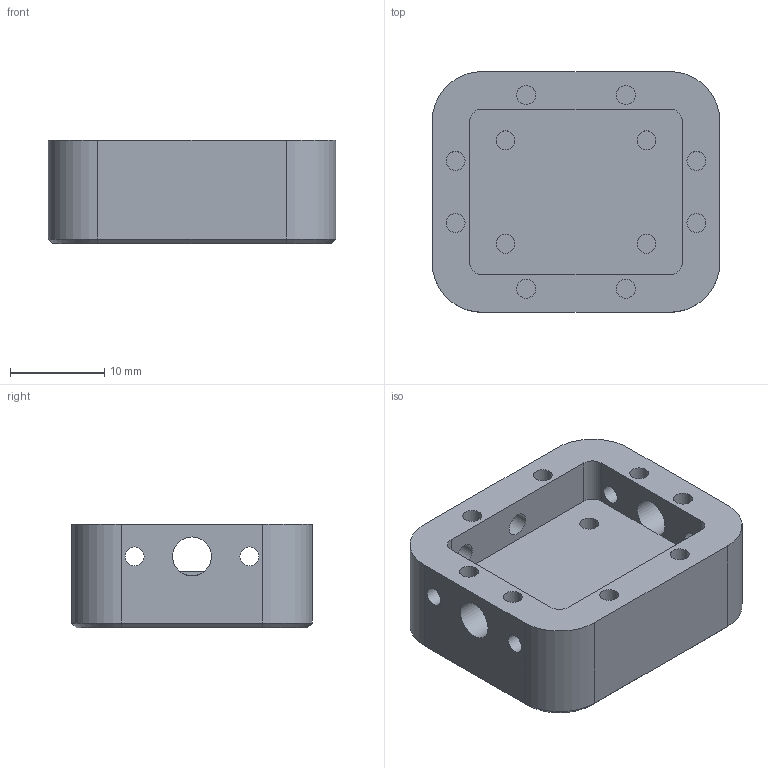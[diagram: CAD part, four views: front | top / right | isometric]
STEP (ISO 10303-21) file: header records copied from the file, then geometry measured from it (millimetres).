
FILE_DESCRIPTION(/* description */ (''),/* implementation_level */ '2;1');
FILE_NAME(/* name */ 'D:\PRJ\10 GHz divider\M-CAD\Box.stp',/* time_stamp */ '2025-02-28T19:00:00+01:00',/* author */ ('Carsten Grøn'),/* organization */ (''),/* preprocessor_version */ 'ST-DEVELOPER v18',/* originating_system */ 'Autodesk Inventor 2020',/* authorisation */ '');
FILE_SCHEMA (('CONFIG_CONTROL_DESIGN'));
Length unit declared in the file: millimetre
Products named in the file (1): Box
Bounding box: 30.6 x 25.6 x 11 mm (x, y, z)
Volume: 5918.4 mm3; surface area: 3668 mm2
Topology: 1 solids, 1 shells, 61 faces, 164 edges, 116 vertices
Faces by surface type: plane 29, cylinder 28, cone 4
Full cylindrical faces by diameter (mm): 2.013 x16, 2.459 x2, 4.15 x2
Entity records: 2067 total; most frequent: DIRECTION 384, CARTESIAN_POINT 342, ORIENTED_EDGE 328, EDGE_CURVE 164, AXIS2_PLACEMENT_3D 158, VERTEX_POINT 116, CIRCLE 96, EDGE_LOOP 88
